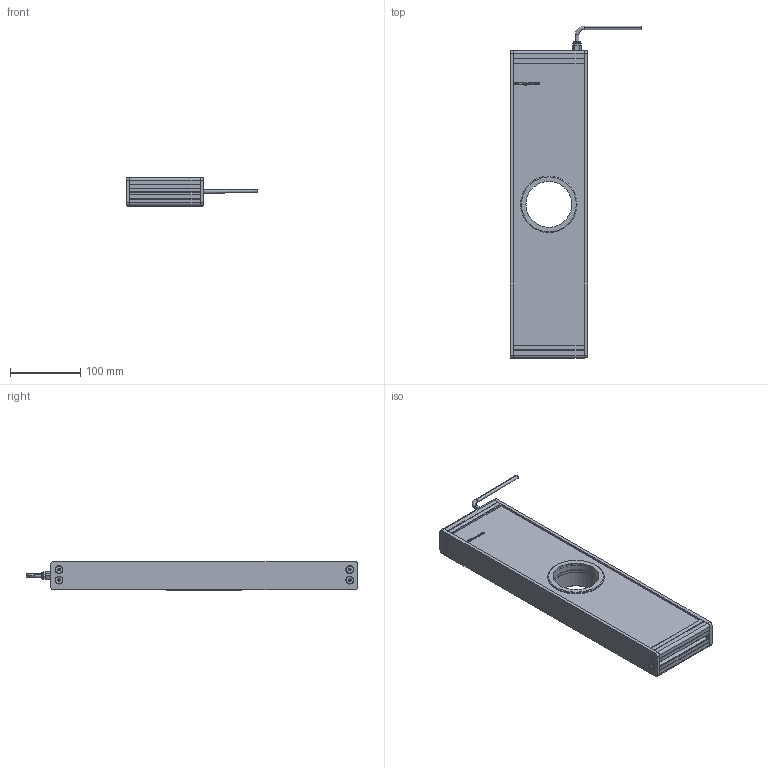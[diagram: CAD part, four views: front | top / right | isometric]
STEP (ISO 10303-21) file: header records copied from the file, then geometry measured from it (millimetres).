
FILE_DESCRIPTION (( 'STEP AP214' ), '1' );
FILE_NAME ('EFFI-FD-100T-400-M12 Ø65.STEP', '2021-07-02T11:08:36', ( '' ), ( '' ), 'SwSTEP 2.0', 'SolidWorks 2021', '' );
FILE_SCHEMA (( 'AUTOMOTIVE_DESIGN' ));
Length unit declared in the file: millimetre
Products named in the file (11): bord fin modif_lg 436.5 mm; Pièce2^EFFI-FD-XXXT-YYY-M12 Ø65; EFFI-FD-100T-400-M12 Ø65; 004409; 004408; Assemblage Ø65; 003776; 000590; profile modif_lg 99.5 mm; cordon_Avec cable
Assembly tree (20 placements, depth 3):
  EFFI-FD-100T-400-M12 Ø65
    profile modif_lg 99.5 mm
    bord fin modif_lg 436.5 mm  x2
    Pièce2^EFFI-FD-XXXT-YYY-M12 Ø65
    profile modif_lg 99.5 mm
    003776  x8
    cordon_Avec cable
    Assemblage Ø65
      004408
      004409
      000590  x3
Bounding box: 187.13 x 471.15 x 41 mm (x, y, z)
Volume: 1578766.9 mm3; surface area: 269436.2 mm2
Topology: 18 solids, 24 shells, 1002 faces, 2513 edges, 1575 vertices
Faces by surface type: plane 392, cylinder 233, bspline 180, cone 154, torus 35, sphere 8
Entity records: 25569 total; most frequent: CARTESIAN_POINT 8641, ORIENTED_EDGE 3310, DIRECTION 3055, EDGE_CURVE 1659, VERTEX_POINT 1072, AXIS2_PLACEMENT_3D 1032, VECTOR 991, LINE 991
